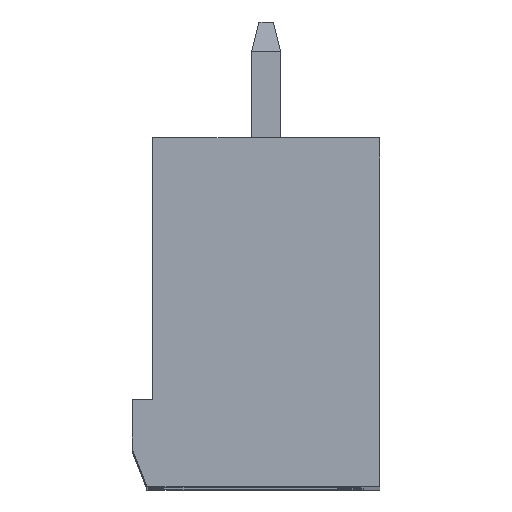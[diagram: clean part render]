
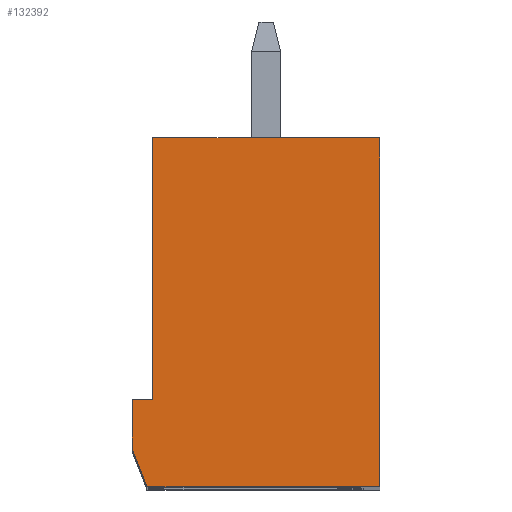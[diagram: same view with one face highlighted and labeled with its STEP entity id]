
A CAD part, top view. The second image highlights one B-rep face of the part: STEP entity #132392.
In plain terms, the highlighted planar face has unit normal (0, 0, 1).
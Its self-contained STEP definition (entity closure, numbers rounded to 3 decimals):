
#132392 = ADVANCED_FACE('',(#132393),#132407,.T.);
#132393 = FACE_BOUND('',#132394,.T.);
#132394 = EDGE_LOOP('',(#132395,#132418,#132434,#132450,#132466,#132482,
    #132498));
#132395 = ORIENTED_EDGE('',*,*,#132396,.F.);
#132396 = EDGE_CURVE('',#132397,#132399,#132401,.T.);
#132397 = VERTEX_POINT('',#132398);
#132398 = CARTESIAN_POINT('',(3.9,12.,55.88));
#132399 = VERTEX_POINT('',#132400);
#132400 = CARTESIAN_POINT('',(3.9,0.,55.88));
#132401 = SURFACE_CURVE('',#132402,(#132406),.PCURVE_S1.);
#132402 = LINE('',#132403,#132404);
#132403 = CARTESIAN_POINT('',(3.9,12.,55.88));
#132404 = VECTOR('',#132405,1.);
#132405 = DIRECTION('',(0.,-1.,0.));
#132406 = PCURVE('',#132407,#132412);
#132407 = PLANE('',#132408);
#132408 = AXIS2_PLACEMENT_3D('',#132409,#132410,#132411);
#132409 = CARTESIAN_POINT('',(0.,0.,55.88));
#132410 = DIRECTION('',(0.,0.,1.));
#132411 = DIRECTION('',(-1.,0.,0.));
#132412 = DEFINITIONAL_REPRESENTATION('',(#132413),#132417);
#132413 = LINE('',#132414,#132415);
#132414 = CARTESIAN_POINT('',(-3.9,-12.));
#132415 = VECTOR('',#132416,1.);
#132416 = DIRECTION('',(0.,1.));
#132417 = ( GEOMETRIC_REPRESENTATION_CONTEXT(2) 
PARAMETRIC_REPRESENTATION_CONTEXT() REPRESENTATION_CONTEXT('2D SPACE',''
  ) );
#132418 = ORIENTED_EDGE('',*,*,#132419,.F.);
#132419 = EDGE_CURVE('',#132420,#132397,#132422,.T.);
#132420 = VERTEX_POINT('',#132421);
#132421 = CARTESIAN_POINT('',(-3.9,12.,55.88));
#132422 = SURFACE_CURVE('',#132423,(#132427),.PCURVE_S1.);
#132423 = LINE('',#132424,#132425);
#132424 = CARTESIAN_POINT('',(-3.9,12.,55.88));
#132425 = VECTOR('',#132426,1.);
#132426 = DIRECTION('',(1.,0.,0.));
#132427 = PCURVE('',#132407,#132428);
#132428 = DEFINITIONAL_REPRESENTATION('',(#132429),#132433);
#132429 = LINE('',#132430,#132431);
#132430 = CARTESIAN_POINT('',(3.9,-12.));
#132431 = VECTOR('',#132432,1.);
#132432 = DIRECTION('',(-1.,0.));
#132433 = ( GEOMETRIC_REPRESENTATION_CONTEXT(2) 
PARAMETRIC_REPRESENTATION_CONTEXT() REPRESENTATION_CONTEXT('2D SPACE',''
  ) );
#132434 = ORIENTED_EDGE('',*,*,#132435,.F.);
#132435 = EDGE_CURVE('',#132436,#132420,#132438,.T.);
#132436 = VERTEX_POINT('',#132437);
#132437 = CARTESIAN_POINT('',(-3.9,3.,55.88));
#132438 = SURFACE_CURVE('',#132439,(#132443),.PCURVE_S1.);
#132439 = LINE('',#132440,#132441);
#132440 = CARTESIAN_POINT('',(-3.9,3.,55.88));
#132441 = VECTOR('',#132442,1.);
#132442 = DIRECTION('',(0.,1.,0.));
#132443 = PCURVE('',#132407,#132444);
#132444 = DEFINITIONAL_REPRESENTATION('',(#132445),#132449);
#132445 = LINE('',#132446,#132447);
#132446 = CARTESIAN_POINT('',(3.9,-3.));
#132447 = VECTOR('',#132448,1.);
#132448 = DIRECTION('',(0.,-1.));
#132449 = ( GEOMETRIC_REPRESENTATION_CONTEXT(2) 
PARAMETRIC_REPRESENTATION_CONTEXT() REPRESENTATION_CONTEXT('2D SPACE',''
  ) );
#132450 = ORIENTED_EDGE('',*,*,#132451,.F.);
#132451 = EDGE_CURVE('',#132452,#132436,#132454,.T.);
#132452 = VERTEX_POINT('',#132453);
#132453 = CARTESIAN_POINT('',(-4.6,3.,55.88));
#132454 = SURFACE_CURVE('',#132455,(#132459),.PCURVE_S1.);
#132455 = LINE('',#132456,#132457);
#132456 = CARTESIAN_POINT('',(-4.6,3.,55.88));
#132457 = VECTOR('',#132458,1.);
#132458 = DIRECTION('',(1.,0.,0.));
#132459 = PCURVE('',#132407,#132460);
#132460 = DEFINITIONAL_REPRESENTATION('',(#132461),#132465);
#132461 = LINE('',#132462,#132463);
#132462 = CARTESIAN_POINT('',(4.6,-3.));
#132463 = VECTOR('',#132464,1.);
#132464 = DIRECTION('',(-1.,0.));
#132465 = ( GEOMETRIC_REPRESENTATION_CONTEXT(2) 
PARAMETRIC_REPRESENTATION_CONTEXT() REPRESENTATION_CONTEXT('2D SPACE',''
  ) );
#132466 = ORIENTED_EDGE('',*,*,#132467,.F.);
#132467 = EDGE_CURVE('',#132468,#132452,#132470,.T.);
#132468 = VERTEX_POINT('',#132469);
#132469 = CARTESIAN_POINT('',(-4.6,1.3,55.88));
#132470 = SURFACE_CURVE('',#132471,(#132475),.PCURVE_S1.);
#132471 = LINE('',#132472,#132473);
#132472 = CARTESIAN_POINT('',(-4.6,1.3,55.88));
#132473 = VECTOR('',#132474,1.);
#132474 = DIRECTION('',(0.,1.,0.));
#132475 = PCURVE('',#132407,#132476);
#132476 = DEFINITIONAL_REPRESENTATION('',(#132477),#132481);
#132477 = LINE('',#132478,#132479);
#132478 = CARTESIAN_POINT('',(4.6,-1.3));
#132479 = VECTOR('',#132480,1.);
#132480 = DIRECTION('',(0.,-1.));
#132481 = ( GEOMETRIC_REPRESENTATION_CONTEXT(2) 
PARAMETRIC_REPRESENTATION_CONTEXT() REPRESENTATION_CONTEXT('2D SPACE',''
  ) );
#132482 = ORIENTED_EDGE('',*,*,#132483,.T.);
#132483 = EDGE_CURVE('',#132468,#132484,#132486,.T.);
#132484 = VERTEX_POINT('',#132485);
#132485 = CARTESIAN_POINT('',(-4.1,0.,55.88));
#132486 = SURFACE_CURVE('',#132487,(#132491),.PCURVE_S1.);
#132487 = LINE('',#132488,#132489);
#132488 = CARTESIAN_POINT('',(-4.6,1.3,55.88));
#132489 = VECTOR('',#132490,1.);
#132490 = DIRECTION('',(0.359,-0.933,0.));
#132491 = PCURVE('',#132407,#132492);
#132492 = DEFINITIONAL_REPRESENTATION('',(#132493),#132497);
#132493 = LINE('',#132494,#132495);
#132494 = CARTESIAN_POINT('',(4.6,-1.3));
#132495 = VECTOR('',#132496,1.);
#132496 = DIRECTION('',(-0.359,0.933));
#132497 = ( GEOMETRIC_REPRESENTATION_CONTEXT(2) 
PARAMETRIC_REPRESENTATION_CONTEXT() REPRESENTATION_CONTEXT('2D SPACE',''
  ) );
#132498 = ORIENTED_EDGE('',*,*,#132499,.F.);
#132499 = EDGE_CURVE('',#132399,#132484,#132500,.T.);
#132500 = SURFACE_CURVE('',#132501,(#132505),.PCURVE_S1.);
#132501 = LINE('',#132502,#132503);
#132502 = CARTESIAN_POINT('',(3.9,0.,55.88));
#132503 = VECTOR('',#132504,1.);
#132504 = DIRECTION('',(-1.,0.,0.));
#132505 = PCURVE('',#132407,#132506);
#132506 = DEFINITIONAL_REPRESENTATION('',(#132507),#132511);
#132507 = LINE('',#132508,#132509);
#132508 = CARTESIAN_POINT('',(-3.9,0.));
#132509 = VECTOR('',#132510,1.);
#132510 = DIRECTION('',(1.,0.));
#132511 = ( GEOMETRIC_REPRESENTATION_CONTEXT(2) 
PARAMETRIC_REPRESENTATION_CONTEXT() REPRESENTATION_CONTEXT('2D SPACE',''
  ) );
